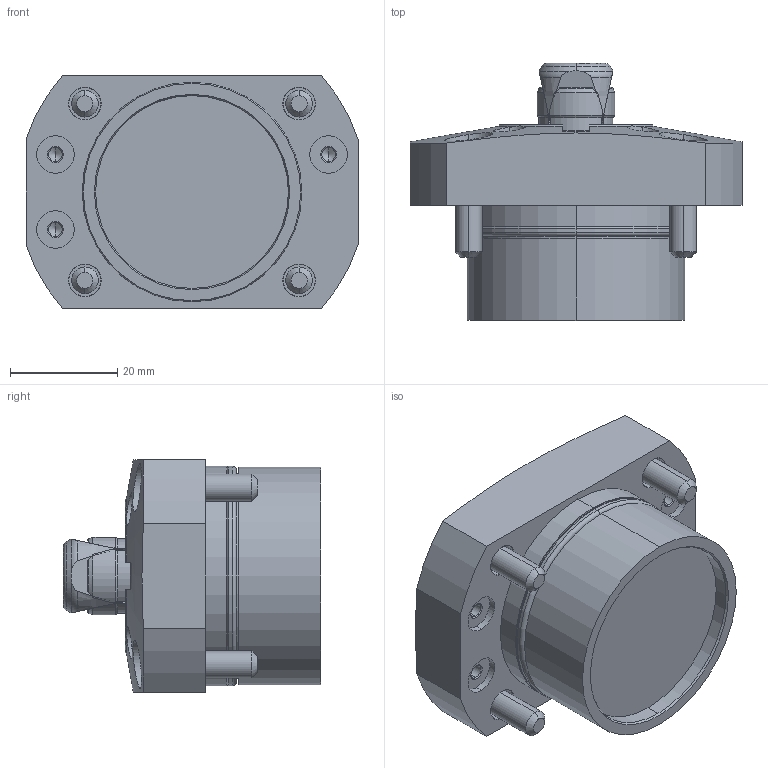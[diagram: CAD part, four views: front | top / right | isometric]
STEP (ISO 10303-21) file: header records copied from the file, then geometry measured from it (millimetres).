
FILE_DESCRIPTION (( 'STEP AP203' ), '1' );
FILE_NAME ('SFH2150_N.STEP', '2010-11-03T23:19:24', ( ' ' ), ( ' ' ), 'SwSTEP 2.0', 'SolidWorks 2010', '' );
FILE_SCHEMA (( 'CONFIG_CONTROL_DESIGN' ));
Length unit declared in the file: millimetre
Products named in the file (7): SFH2150-N_套菁轤礁诎蔬晅; 冇15_郫霓; SFH2150_N; 6妏寠晅无倌_M3_10; 6妏寠晅无倌_M5_16; φ15_ｽﾘｰﾌﾞ-N; SFH2_钾堇轤O剌皋晅
Assembly tree (12 placements, depth 2):
  SFH2150_N
    6妏寠晅无倌_M5_16  x4
    6妏寠晅无倌_M3_10  x4
    冇15_郫霓
    SFH2150-N_套菁轤礁诎蔬晅
    φ15_ｽﾘｰﾌﾞ-N
    SFH2_钾堇轤O剌皋晅
Bounding box: 62 x 48 x 43.5 mm (x, y, z)
Volume: 60263.9 mm3; surface area: 21934.4 mm2
Topology: 16 solids, 16 shells, 480 faces, 991 edges, 550 vertices
Faces by surface type: plane 187, cone 156, cylinder 118, torus 19
Entity records: 9863 total; most frequent: CARTESIAN_POINT 2416, DIRECTION 1446, ORIENTED_EDGE 1310, EDGE_CURVE 655, AXIS2_PLACEMENT_3D 604, VERTEX_POINT 400, EDGE_LOOP 331, CIRCLE 295
